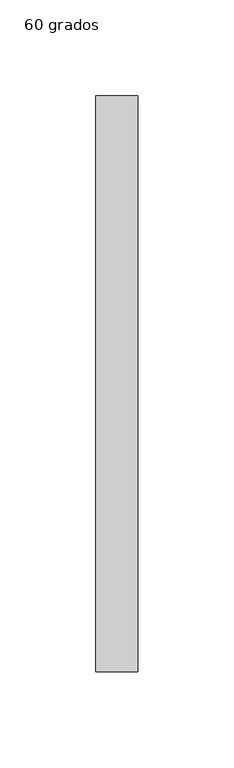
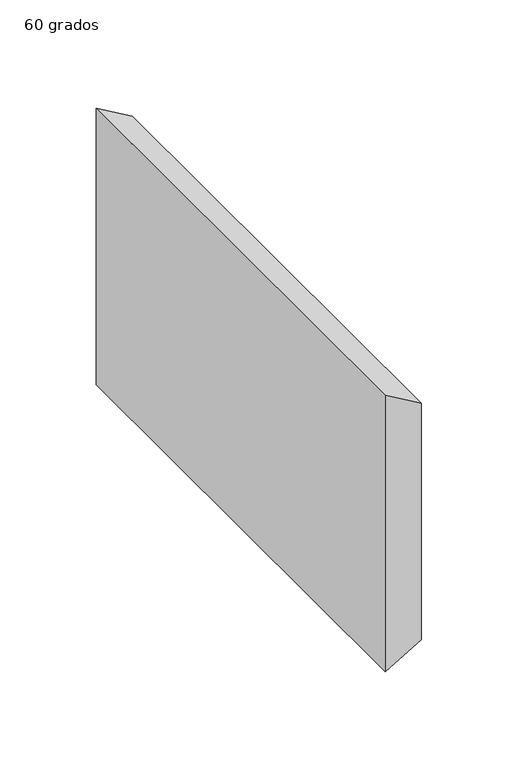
"""IFC4 building model written with IfcOpenShell, lengths in millimetres: duct fitting geometry, M_Transición rectangular - Ángulo : 60 grados."""

from ifc_helpers import new_model, si_unit, frame, origin, place, context, project, spatial, polyline, outline, extrude, source, transform, mapped, element, save


def duct_fitting_60_grados_90149bfe(model_context):
    return source(origin(), model_context, "Body", "SweptSolid", [
        extrude(outline(polyline([(87.5, 0.0), (-87.5, 0.0), (-75.0, 21.6506351), (75.0, 21.6506351), (87.5, 0.0)])), frame((0.0, -150.0, 0.0), z_axis=(0.0, 1.0, 0.0), x_axis=(0.0, 0.0, 1.0)), (0.0, 0.0, 1.0), 300.0),
    ])


if __name__ == "__main__":
    model = new_model("IFC4")
    model_context = context("Model", 3, world=origin())
    ifc_project = project(units=[si_unit("LENGTHUNIT", "METRE", prefix="MILLI")], contexts=[model_context])
    site = spatial("IfcSite", under=ifc_project)
    building = spatial("IfcBuilding", under=site)
    placement = place(None, origin())
    duct_fitting_60_grados_shape = duct_fitting_60_grados_90149bfe(model_context)
    element("IfcDuctFitting", 1, ObjectType="M_Transición rectangular - Ángulo : 60 grados", at=placement, inside=building, context=model_context, shape_type="MappedRepresentation", body=[
        mapped(duct_fitting_60_grados_shape, transform((0.0, 0.0, 0.0), x_axis=(1.0, 0.0, 0.0), y_axis=(0.0, 1.0, 0.0), z_axis=(0.0, 0.0, 1.0))),
    ])
    save(model, "model.ifc")
